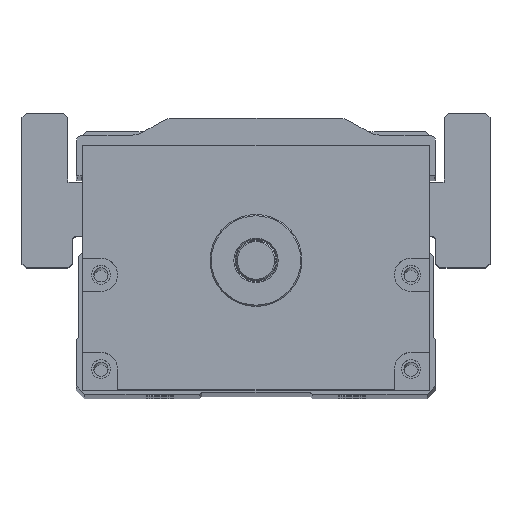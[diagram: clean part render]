
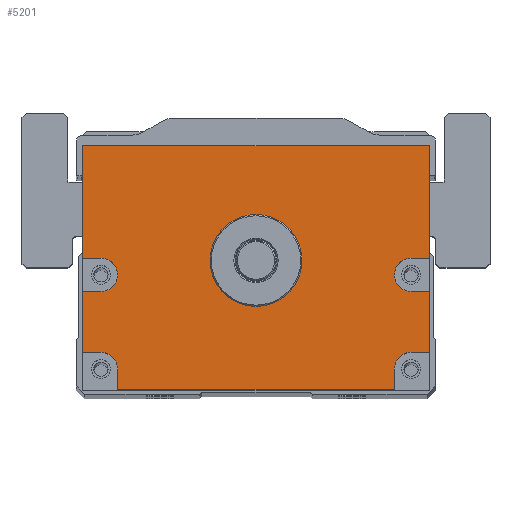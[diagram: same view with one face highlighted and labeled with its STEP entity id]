
A CAD part, top view. The second image highlights one B-rep face of the part: STEP entity #5201.
In plain terms, the highlighted planar face has unit normal (0, 0, 1).
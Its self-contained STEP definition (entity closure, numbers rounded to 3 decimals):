
#3759=FACE_BOUND('',#6941,.T.);
#3760=FACE_BOUND('',#6942,.T.);
#4278=CIRCLE('',#15843,11.);
#4289=CIRCLE('',#15857,4.);
#4290=CIRCLE('',#15858,4.);
#4291=CIRCLE('',#15859,4.);
#4292=CIRCLE('',#15860,4.);
#5201=ADVANCED_FACE('',(#3759,#3760),#5712,.T.);
#5712=PLANE('',#15861);
#6941=EDGE_LOOP('',(#9400,#9401,#9402,#9403,#9404,#9405,#9406,#9407,#9408,
#9409,#9410,#9411,#9412,#9413,#9414,#9415,#9416,#9417));
#6942=EDGE_LOOP('',(#9418));
#9400=ORIENTED_EDGE('',*,*,#12830,.F.);
#9401=ORIENTED_EDGE('',*,*,#12831,.T.);
#9402=ORIENTED_EDGE('',*,*,#12832,.F.);
#9403=ORIENTED_EDGE('',*,*,#12833,.F.);
#9404=ORIENTED_EDGE('',*,*,#12834,.F.);
#9405=ORIENTED_EDGE('',*,*,#12835,.T.);
#9406=ORIENTED_EDGE('',*,*,#12826,.T.);
#9407=ORIENTED_EDGE('',*,*,#12836,.T.);
#9408=ORIENTED_EDGE('',*,*,#12837,.F.);
#9409=ORIENTED_EDGE('',*,*,#12838,.F.);
#9410=ORIENTED_EDGE('',*,*,#12839,.F.);
#9411=ORIENTED_EDGE('',*,*,#12840,.T.);
#9412=ORIENTED_EDGE('',*,*,#12841,.F.);
#9413=ORIENTED_EDGE('',*,*,#12842,.F.);
#9414=ORIENTED_EDGE('',*,*,#12843,.F.);
#9415=ORIENTED_EDGE('',*,*,#12844,.T.);
#9416=ORIENTED_EDGE('',*,*,#12845,.F.);
#9417=ORIENTED_EDGE('',*,*,#12846,.F.);
#9418=ORIENTED_EDGE('',*,*,#12812,.T.);
#11340=VERTEX_POINT('',#22988);
#11353=VERTEX_POINT('',#23016);
#11354=VERTEX_POINT('',#23018);
#11357=VERTEX_POINT('',#23026);
#11358=VERTEX_POINT('',#23027);
#11359=VERTEX_POINT('',#23029);
#11360=VERTEX_POINT('',#23031);
#11361=VERTEX_POINT('',#23033);
#11362=VERTEX_POINT('',#23035);
#11363=VERTEX_POINT('',#23038);
#11364=VERTEX_POINT('',#23040);
#11365=VERTEX_POINT('',#23042);
#11366=VERTEX_POINT('',#23044);
#11367=VERTEX_POINT('',#23046);
#11368=VERTEX_POINT('',#23048);
#11369=VERTEX_POINT('',#23050);
#11370=VERTEX_POINT('',#23052);
#11371=VERTEX_POINT('',#23054);
#11372=VERTEX_POINT('',#23056);
#12812=EDGE_CURVE('',#11340,#11340,#4278,.T.);
#12826=EDGE_CURVE('',#11354,#11353,#14002,.T.);
#12830=EDGE_CURVE('',#11357,#11358,#14004,.T.);
#12831=EDGE_CURVE('',#11357,#11359,#14005,.T.);
#12832=EDGE_CURVE('',#11360,#11359,#14006,.T.);
#12833=EDGE_CURVE('',#11361,#11360,#4289,.T.);
#12834=EDGE_CURVE('',#11362,#11361,#14007,.T.);
#12835=EDGE_CURVE('',#11362,#11354,#14008,.T.);
#12836=EDGE_CURVE('',#11353,#11363,#14009,.T.);
#12837=EDGE_CURVE('',#11364,#11363,#14010,.T.);
#12838=EDGE_CURVE('',#11365,#11364,#4290,.T.);
#12839=EDGE_CURVE('',#11366,#11365,#14011,.T.);
#12840=EDGE_CURVE('',#11366,#11367,#14012,.T.);
#12841=EDGE_CURVE('',#11368,#11367,#14013,.T.);
#12842=EDGE_CURVE('',#11369,#11368,#4291,.T.);
#12843=EDGE_CURVE('',#11370,#11369,#14014,.T.);
#12844=EDGE_CURVE('',#11370,#11371,#14015,.T.);
#12845=EDGE_CURVE('',#11372,#11371,#14016,.T.);
#12846=EDGE_CURVE('',#11358,#11372,#4292,.T.);
#14002=LINE('',#23017,#14849);
#14004=LINE('',#23025,#14851);
#14005=LINE('',#23028,#14852);
#14006=LINE('',#23030,#14853);
#14007=LINE('',#23034,#14854);
#14008=LINE('',#23036,#14855);
#14009=LINE('',#23037,#14856);
#14010=LINE('',#23039,#14857);
#14011=LINE('',#23043,#14858);
#14012=LINE('',#23045,#14859);
#14013=LINE('',#23047,#14860);
#14014=LINE('',#23051,#14861);
#14015=LINE('',#23053,#14862);
#14016=LINE('',#23055,#14863);
#14849=VECTOR('',#18341,1.);
#14851=VECTOR('',#18349,1.);
#14852=VECTOR('',#18350,1.);
#14853=VECTOR('',#18351,1.);
#14854=VECTOR('',#18354,1.);
#14855=VECTOR('',#18355,1.);
#14856=VECTOR('',#18356,1.);
#14857=VECTOR('',#18357,1.);
#14858=VECTOR('',#18360,1.);
#14859=VECTOR('',#18361,1.);
#14860=VECTOR('',#18362,1.);
#14861=VECTOR('',#18365,1.);
#14862=VECTOR('',#18366,1.);
#14863=VECTOR('',#18367,1.);
#15843=AXIS2_PLACEMENT_3D('',#22987,#18314,#18315);
#15857=AXIS2_PLACEMENT_3D('',#23032,#18352,#18353);
#15858=AXIS2_PLACEMENT_3D('',#23041,#18358,#18359);
#15859=AXIS2_PLACEMENT_3D('',#23049,#18363,#18364);
#15860=AXIS2_PLACEMENT_3D('',#23057,#18368,#18369);
#15861=AXIS2_PLACEMENT_3D('',#23058,#18370,#18371);
#18314=DIRECTION('',(0.,0.,-1.));
#18315=DIRECTION('',(1.,0.,0.));
#18341=DIRECTION('',(-1.,0.,0.));
#18349=DIRECTION('',(-1.,0.,0.));
#18350=DIRECTION('',(0.,1.,0.));
#18351=DIRECTION('',(1.,0.,0.));
#18352=DIRECTION('',(0.,0.,1.));
#18353=DIRECTION('',(1.,0.,0.));
#18354=DIRECTION('',(-1.,0.,0.));
#18355=DIRECTION('',(0.,1.,0.));
#18356=DIRECTION('',(0.,-1.,0.));
#18357=DIRECTION('',(-1.,0.,0.));
#18358=DIRECTION('',(0.,0.,1.));
#18359=DIRECTION('',(1.,0.,0.));
#18360=DIRECTION('',(1.,0.,0.));
#18361=DIRECTION('',(0.,-1.,0.));
#18362=DIRECTION('',(-1.,0.,0.));
#18363=DIRECTION('',(0.,0.,1.));
#18364=DIRECTION('',(1.,0.,0.));
#18365=DIRECTION('',(0.,1.,0.));
#18366=DIRECTION('',(1.,0.,0.));
#18367=DIRECTION('',(0.,-1.,0.));
#18368=DIRECTION('',(0.,0.,1.));
#18369=DIRECTION('',(1.,0.,0.));
#18370=DIRECTION('',(0.,0.,1.));
#18371=DIRECTION('',(1.,0.,0.));
#22987=CARTESIAN_POINT('',(300.,0.,482.5));
#22988=CARTESIAN_POINT('',(311.,0.,482.5));
#23016=CARTESIAN_POINT('',(258.5,27.5,482.5));
#23017=CARTESIAN_POINT('',(341.5,27.5,482.5));
#23018=CARTESIAN_POINT('',(341.5,27.5,482.5));
#23025=CARTESIAN_POINT('',(341.5,-22.,482.5));
#23026=CARTESIAN_POINT('',(341.5,-22.,482.5));
#23027=CARTESIAN_POINT('',(337.115,-22.,482.5));
#23028=CARTESIAN_POINT('',(341.5,-31.,482.5));
#23029=CARTESIAN_POINT('',(341.5,-7.431,482.5));
#23030=CARTESIAN_POINT('',(341.5,-7.431,482.5));
#23031=CARTESIAN_POINT('',(337.115,-7.431,482.5));
#23032=CARTESIAN_POINT('',(337.115,-3.431,482.5));
#23033=CARTESIAN_POINT('',(337.115,0.569,482.5));
#23034=CARTESIAN_POINT('',(341.5,0.569,482.5));
#23035=CARTESIAN_POINT('',(341.5,0.569,482.5));
#23036=CARTESIAN_POINT('',(341.5,-31.,482.5));
#23037=CARTESIAN_POINT('',(258.5,27.5,482.5));
#23038=CARTESIAN_POINT('',(258.5,0.569,482.5));
#23039=CARTESIAN_POINT('',(341.5,0.569,482.5));
#23040=CARTESIAN_POINT('',(262.885,0.569,482.5));
#23041=CARTESIAN_POINT('',(262.885,-3.431,482.5));
#23042=CARTESIAN_POINT('',(262.885,-7.431,482.5));
#23043=CARTESIAN_POINT('',(341.5,-7.431,482.5));
#23044=CARTESIAN_POINT('',(258.5,-7.431,482.5));
#23045=CARTESIAN_POINT('',(258.5,27.5,482.5));
#23046=CARTESIAN_POINT('',(258.5,-22.,482.5));
#23047=CARTESIAN_POINT('',(341.5,-22.,482.5));
#23048=CARTESIAN_POINT('',(262.885,-22.,482.5));
#23049=CARTESIAN_POINT('',(262.885,-26.,482.5));
#23050=CARTESIAN_POINT('',(266.885,-26.,482.5));
#23051=CARTESIAN_POINT('',(266.885,-31.,482.5));
#23052=CARTESIAN_POINT('',(266.885,-31.,482.5));
#23053=CARTESIAN_POINT('',(258.5,-31.,482.5));
#23054=CARTESIAN_POINT('',(333.115,-31.,482.5));
#23055=CARTESIAN_POINT('',(333.115,-31.,482.5));
#23056=CARTESIAN_POINT('',(333.115,-26.,482.5));
#23057=CARTESIAN_POINT('',(337.115,-26.,482.5));
#23058=CARTESIAN_POINT('',(341.5,-31.,482.5));
